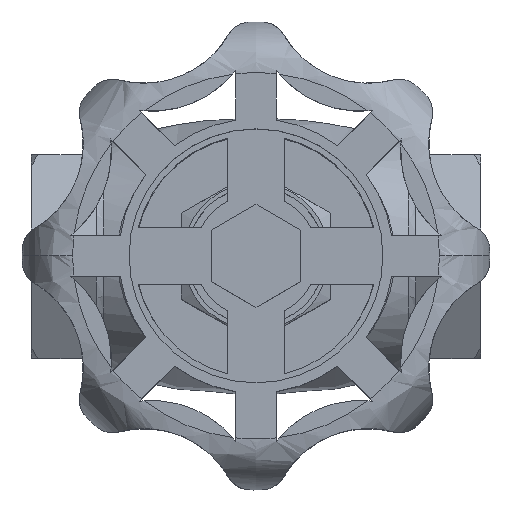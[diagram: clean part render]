
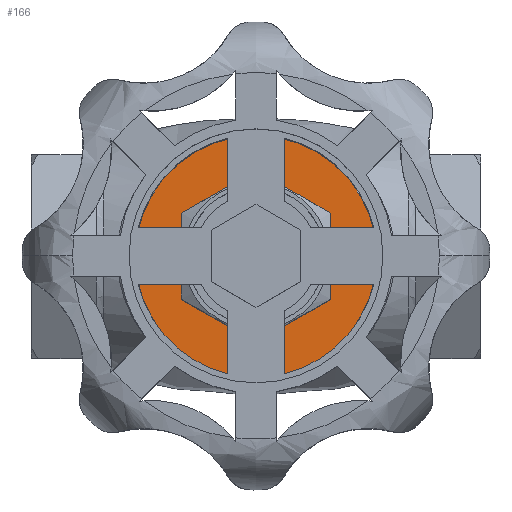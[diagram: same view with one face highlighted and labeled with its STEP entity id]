
A CAD part, top view. The second image highlights one B-rep face of the part: STEP entity #166.
In plain terms, the highlighted planar face has unit normal (0, 0, 1).
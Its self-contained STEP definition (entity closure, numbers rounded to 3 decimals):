
#166=ADVANCED_FACE('',(#1553,#1554),#1552,.T.);
#1552=PLANE('',#3865);
#1553=FACE_OUTER_BOUND('',#3866,.T.);
#1554=FACE_BOUND('',#3867,.T.);
#3862=CARTESIAN_POINT('',(-41.966,-65.914,58.226));
#3863=DIRECTION('',(0.,0.,1.));
#3864=DIRECTION('',(1.,0.,0.));
#3865=AXIS2_PLACEMENT_3D('',#3862,#3863,#3864);
#3866=EDGE_LOOP('',(#6043,#6044));
#3867=EDGE_LOOP('',(#6045,#6046,#6047,#6048,#6049,#6050,#6051,#6052,#6053,#6054,#6055,#6056));
#6043=ORIENTED_EDGE('',*,*,#7210,.F.);
#6044=ORIENTED_EDGE('',*,*,#7211,.F.);
#6045=ORIENTED_EDGE('',*,*,#6810,.T.);
#6046=ORIENTED_EDGE('',*,*,#6836,.F.);
#6047=ORIENTED_EDGE('',*,*,#6804,.T.);
#6048=ORIENTED_EDGE('',*,*,#6832,.F.);
#6049=ORIENTED_EDGE('',*,*,#7202,.T.);
#6050=ORIENTED_EDGE('',*,*,#7208,.F.);
#6051=ORIENTED_EDGE('',*,*,#7199,.T.);
#6052=ORIENTED_EDGE('',*,*,#6823,.F.);
#6053=ORIENTED_EDGE('',*,*,#6819,.T.);
#6054=ORIENTED_EDGE('',*,*,#6828,.F.);
#6055=ORIENTED_EDGE('',*,*,#6812,.T.);
#6056=ORIENTED_EDGE('',*,*,#7209,.F.);
#6804=EDGE_CURVE('',#8003,#8004,#8005,.T.);
#6810=EDGE_CURVE('',#8046,#8039,#8047,.T.);
#6812=EDGE_CURVE('',#8059,#8060,#8061,.T.);
#6819=EDGE_CURVE('',#8107,#8108,#8109,.T.);
#6823=EDGE_CURVE('',#8107,#8135,#8136,.T.);
#6828=EDGE_CURVE('',#8059,#8108,#8169,.T.);
#6832=EDGE_CURVE('',#8195,#8004,#8196,.T.);
#6836=EDGE_CURVE('',#8003,#8039,#8222,.T.);
#7199=EDGE_CURVE('',#10658,#8135,#10659,.T.);
#7202=EDGE_CURVE('',#8195,#10678,#10679,.T.);
#7208=EDGE_CURVE('',#10658,#10678,#10716,.T.);
#7209=EDGE_CURVE('',#8046,#8060,#10722,.T.);
#7210=EDGE_CURVE('',#10728,#10729,#10730,.T.);
#7211=EDGE_CURVE('',#10729,#10728,#10736,.T.);
#8003=VERTEX_POINT('',#12718);
#8004=VERTEX_POINT('',#12719);
#8005=CIRCLE('',#12723,22.937);
#8039=VERTEX_POINT('',#12742);
#8046=VERTEX_POINT('',#12746);
#8047=CIRCLE('',#12750,22.937);
#8059=VERTEX_POINT('',#12754);
#8060=VERTEX_POINT('',#12755);
#8061=CIRCLE('',#12759,22.937);
#8107=VERTEX_POINT('',#12786);
#8108=VERTEX_POINT('',#12787);
#8109=CIRCLE('',#12791,22.937);
#8135=VERTEX_POINT('',#12804);
#8136=LINE('',#12805,#12806);
#8169=LINE('',#12825,#12826);
#8195=VERTEX_POINT('',#12841);
#8196=LINE('',#12842,#12843);
#8222=LINE('',#12857,#12858);
#10658=VERTEX_POINT('',#14690);
#10659=CIRCLE('',#14694,22.937);
#10678=VERTEX_POINT('',#14703);
#10679=CIRCLE('',#14707,22.937);
#10716=LINE('',#14732,#14733);
#10722=LINE('',#14735,#14736);
#10728=VERTEX_POINT('',#14738);
#10729=VERTEX_POINT('',#14739);
#10730=CIRCLE('',#14743,32.282);
#10736=CIRCLE('',#14747,32.282);
#12718=CARTESIAN_POINT('',(0.088,-22.937,58.226));
#12719=CARTESIAN_POINT('',(-0.088,-22.937,58.226));
#12720=CARTESIAN_POINT('',(0.,0.,58.226));
#12721=DIRECTION('',(0.,0.,-1.));
#12722=DIRECTION('',(1.,0.,0.));
#12723=AXIS2_PLACEMENT_3D('',#12720,#12721,#12722);
#12742=CARTESIAN_POINT('',(19.82,-11.544,58.226));
#12746=CARTESIAN_POINT('',(19.908,-11.393,58.226));
#12747=CARTESIAN_POINT('',(0.,0.,58.226));
#12748=DIRECTION('',(0.,0.,-1.));
#12749=DIRECTION('',(1.,0.,0.));
#12750=AXIS2_PLACEMENT_3D('',#12747,#12748,#12749);
#12754=CARTESIAN_POINT('',(19.82,11.544,58.226));
#12755=CARTESIAN_POINT('',(19.908,11.393,58.226));
#12756=CARTESIAN_POINT('',(0.,0.,58.226));
#12757=DIRECTION('',(0.,0.,-1.));
#12758=DIRECTION('',(1.,0.,0.));
#12759=AXIS2_PLACEMENT_3D('',#12756,#12757,#12758);
#12786=CARTESIAN_POINT('',(-0.088,22.937,58.226));
#12787=CARTESIAN_POINT('',(0.088,22.937,58.226));
#12788=CARTESIAN_POINT('',(0.,0.,58.226));
#12789=DIRECTION('',(0.,0.,-1.));
#12790=DIRECTION('',(1.,0.,0.));
#12791=AXIS2_PLACEMENT_3D('',#12788,#12789,#12790);
#12804=CARTESIAN_POINT('',(-19.82,11.544,58.226));
#12805=CARTESIAN_POINT('',(-0.088,22.937,58.226));
#12806=VECTOR('',#12807,22.785);
#12807=DIRECTION('',(-0.866,-0.5,0.));
#12825=CARTESIAN_POINT('',(19.82,11.544,58.226));
#12826=VECTOR('',#12827,22.785);
#12827=DIRECTION('',(-0.866,0.5,0.));
#12841=CARTESIAN_POINT('',(-19.82,-11.544,58.226));
#12842=CARTESIAN_POINT('',(-19.82,-11.544,58.226));
#12843=VECTOR('',#12844,22.785);
#12844=DIRECTION('',(0.866,-0.5,0.));
#12857=CARTESIAN_POINT('',(0.088,-22.937,58.226));
#12858=VECTOR('',#12859,22.785);
#12859=DIRECTION('',(0.866,0.5,0.));
#14690=CARTESIAN_POINT('',(-19.908,11.393,58.226));
#14691=CARTESIAN_POINT('',(0.,0.,58.226));
#14692=DIRECTION('',(0.,0.,-1.));
#14693=DIRECTION('',(1.,0.,0.));
#14694=AXIS2_PLACEMENT_3D('',#14691,#14692,#14693);
#14703=CARTESIAN_POINT('',(-19.908,-11.393,58.226));
#14704=CARTESIAN_POINT('',(0.,0.,58.226));
#14705=DIRECTION('',(0.,0.,-1.));
#14706=DIRECTION('',(1.,0.,0.));
#14707=AXIS2_PLACEMENT_3D('',#14704,#14705,#14706);
#14732=CARTESIAN_POINT('',(-19.908,11.393,58.226));
#14733=VECTOR('',#14734,22.785);
#14734=DIRECTION('',(0.,-1.,0.));
#14735=CARTESIAN_POINT('',(19.908,-11.393,58.226));
#14736=VECTOR('',#14737,22.785);
#14737=DIRECTION('',(0.,1.,0.));
#14738=CARTESIAN_POINT('',(32.282,0.,58.226));
#14739=CARTESIAN_POINT('',(-32.282,0.,58.226));
#14740=CARTESIAN_POINT('',(0.,0.,58.226));
#14741=DIRECTION('',(0.,0.,-1.));
#14742=DIRECTION('',(-1.,0.,0.));
#14743=AXIS2_PLACEMENT_3D('',#14740,#14741,#14742);
#14744=CARTESIAN_POINT('',(0.,0.,58.226));
#14745=DIRECTION('',(0.,0.,-1.));
#14746=DIRECTION('',(-1.,0.,0.));
#14747=AXIS2_PLACEMENT_3D('',#14744,#14745,#14746);
